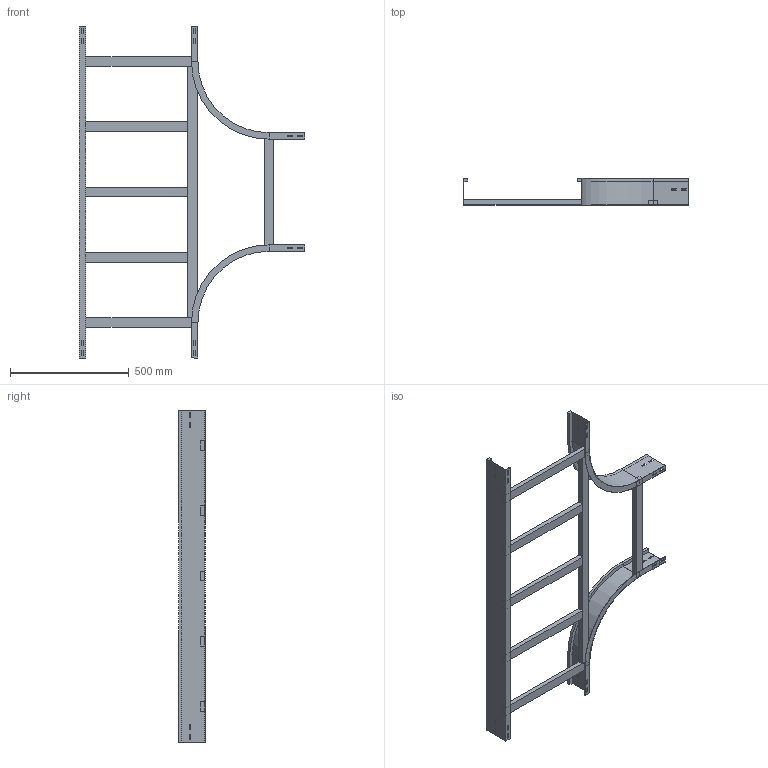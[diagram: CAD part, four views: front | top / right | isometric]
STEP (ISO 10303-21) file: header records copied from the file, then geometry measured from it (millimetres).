
FILE_DESCRIPTION (( 'STEP AP214' ), '1' );
FILE_NAME ('A2_15B3J500.step', '2025-02-21T15:51:32', ( '' ), ( '' ), 'SwSTEP 2.0', 'SolidWorks 2023', '' );
FILE_SCHEMA (( 'AUTOMOTIVE_DESIGN' ));
Length unit declared in the file: millimetre
Products named in the file (6): A2_LONGH.INTERNO 90°_H112.5_R300; TRAVERSINO_INTERMEDIO_R300+500; A2_15B3J500; TRAVERSINO_500; A2_LONGH.RETT_H112.5_R300+500; A2_TRAVERSINO_LONG._R300+500
Assembly tree (10 placements, depth 2):
  A2_15B3J500
    A2_LONGH.INTERNO 90°_H112.5_R300  x2
    A2_LONGH.RETT_H112.5_R300+500
    TRAVERSINO_500  x3
    A2_TRAVERSINO_LONG._R300+500
    TRAVERSINO_INTERMEDIO_R300+500  x3
Bounding box: 950 x 112.5 x 1400 mm (x, y, z)
Volume: 4546101.5 mm3; surface area: 1403001.2 mm2
Topology: 10 solids, 10 shells, 200 faces, 508 edges, 328 vertices
Faces by surface type: plane 192, cylinder 8
Entity records: 3823 total; most frequent: CARTESIAN_POINT 639, ORIENTED_EDGE 616, DIRECTION 578, EDGE_CURVE 308, LINE 300, VECTOR 300, VERTEX_POINT 200, EDGE_LOOP 150
